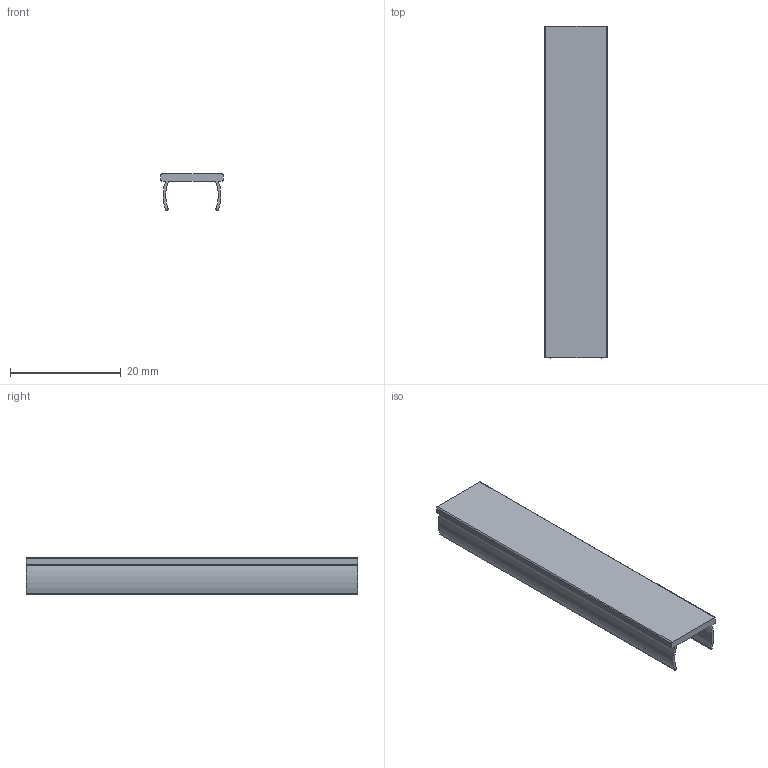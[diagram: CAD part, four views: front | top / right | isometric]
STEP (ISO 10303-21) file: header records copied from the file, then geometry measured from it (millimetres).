
FILE_DESCRIPTION( ( 'Unknown' ), '1' );
FILE_NAME( '//NAS_LAN/private_lan_Vol3/DB/Serie1/0051-B10-Abdeckprofil-AL-2016-01-02/B10-Abdeckprofil-AL.stp', 'Unknown', ( 'Unknown' ), ( 'Unknown' ), 'XStep 1.0', 'Unknown', ' ' );
FILE_SCHEMA( ( 'automotive_design' ) );
Length unit declared in the file: millimetre
Products named in the file (1): 1
Bounding box: 11.3 x 60 x 6.6 mm (x, y, z)
Volume: 1232 mm3; surface area: 2795.7 mm2
Topology: 1 solids, 1 shells, 18 faces, 48 edges, 32 vertices
Faces by surface type: cylinder 10, plane 8
Entity records: 732 total; most frequent: DIRECTION 106, CARTESIAN_POINT 99, ORIENTED_EDGE 96, EDGE_CURVE 48, AXIS2_PLACEMENT_3D 39, VERTEX_POINT 32, LINE 28, VECTOR 28
